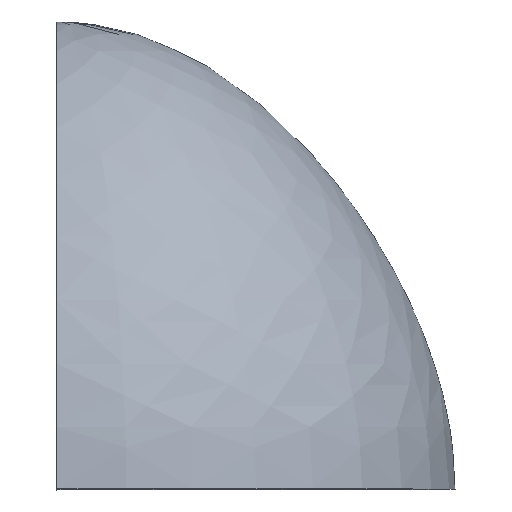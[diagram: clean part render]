
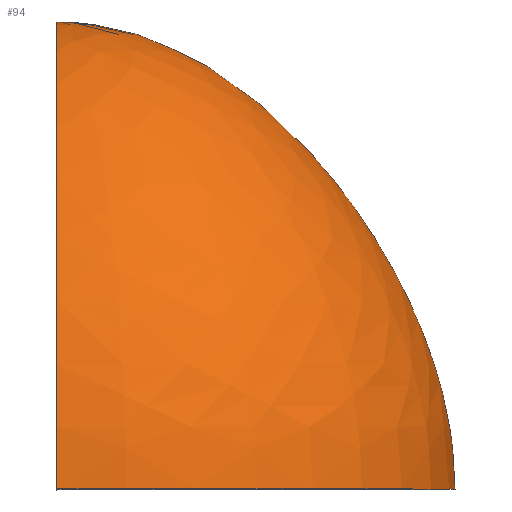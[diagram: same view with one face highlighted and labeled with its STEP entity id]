
A CAD part, top view. The second image highlights one B-rep face of the part: STEP entity #94.
In plain terms, the highlighted face is a revolution surface.
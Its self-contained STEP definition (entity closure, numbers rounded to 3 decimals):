
#52=CARTESIAN_POINT('Control Point',(0.,0.,92.)) ;
#53=CARTESIAN_POINT('Control Point',(0.,28.375,92.)) ;
#54=CARTESIAN_POINT('Control Point',(0.,58.921,79.64)) ;
#55=CARTESIAN_POINT('Control Point',(0.,91.64,54.921)) ;
#56=CARTESIAN_POINT('Control Point',(0.,108.,28.375)) ;
#57=CARTESIAN_POINT('Control Point',(0.,108.,0.)) ;
#58=CARTESIAN_POINT('Axis1P Location',(0.,0.,0.)) ;
#63=CARTESIAN_POINT('Control Point',(0.,0.,-92.)) ;
#64=CARTESIAN_POINT('Control Point',(0.,28.375,-92.)) ;
#65=CARTESIAN_POINT('Control Point',(0.,58.921,-79.64)) ;
#66=CARTESIAN_POINT('Control Point',(0.,91.64,-54.921)) ;
#67=CARTESIAN_POINT('Control Point',(0.,108.,-28.375)) ;
#68=CARTESIAN_POINT('Control Point',(0.,108.,0.)) ;
#69=CARTESIAN_POINT('Vertex',(0.,0.,-92.)) ;
#71=CARTESIAN_POINT('Vertex',(0.,108.,0.)) ;
#75=CARTESIAN_POINT('Control Point',(0.,0.,92.)) ;
#76=CARTESIAN_POINT('Control Point',(0.,28.375,92.)) ;
#77=CARTESIAN_POINT('Control Point',(0.,58.921,79.64)) ;
#78=CARTESIAN_POINT('Control Point',(0.,91.64,54.921)) ;
#79=CARTESIAN_POINT('Control Point',(0.,108.,28.375)) ;
#80=CARTESIAN_POINT('Control Point',(0.,108.,0.)) ;
#81=CARTESIAN_POINT('Vertex',(0.,0.,92.)) ;
#84=CARTESIAN_POINT('Axis2P3D Location',(0.,0.,0.)) ;
#59=DIRECTION('Axis1P Direction',(0.,1.,0.)) ;
#85=DIRECTION('Axis2P3D Direction',(0.,1.,0.)) ;
#86=AXIS2_PLACEMENT_3D('Circle Axis2P3D',#84,#85,$) ;
#90=ORIENTED_EDGE('',*,*,#73,.T.) ;
#91=ORIENTED_EDGE('',*,*,#83,.F.) ;
#92=ORIENTED_EDGE('',*,*,#88,.T.) ;
#94=ADVANCED_FACE('PartBody',(#93),#61,.T.) ;
#60=AXIS1_PLACEMENT('Revolution Surface Axis1P',#58,#59) ;
#51=B_SPLINE_CURVE_WITH_KNOTS('',5,(#52,#53,#54,#55,#56,#57),.UNSPECIFIED.,.F.,.U.,(6,6),(0.,141.873),.UNSPECIFIED.) ;
#62=B_SPLINE_CURVE_WITH_KNOTS('',5,(#63,#64,#65,#66,#67,#68),.UNSPECIFIED.,.F.,.U.,(6,6),(0.,141.873),.UNSPECIFIED.) ;
#74=B_SPLINE_CURVE_WITH_KNOTS('',5,(#75,#76,#77,#78,#79,#80),.UNSPECIFIED.,.F.,.U.,(6,6),(0.,141.873),.UNSPECIFIED.) ;
#87=CIRCLE('generated circle',#86,92.) ;
#73=EDGE_CURVE('',#70,#72,#62,.T.) ;
#83=EDGE_CURVE('',#82,#72,#74,.T.) ;
#88=EDGE_CURVE('',#82,#70,#87,.T.) ;
#89=EDGE_LOOP('',(#90,#91,#92)) ;
#93=FACE_OUTER_BOUND('',#89,.T.) ;
#61=SURFACE_OF_REVOLUTION('Surface of Revolution',#51,#60) ;
#70=VERTEX_POINT('',#69) ;
#72=VERTEX_POINT('',#71) ;
#82=VERTEX_POINT('',#81) ;
